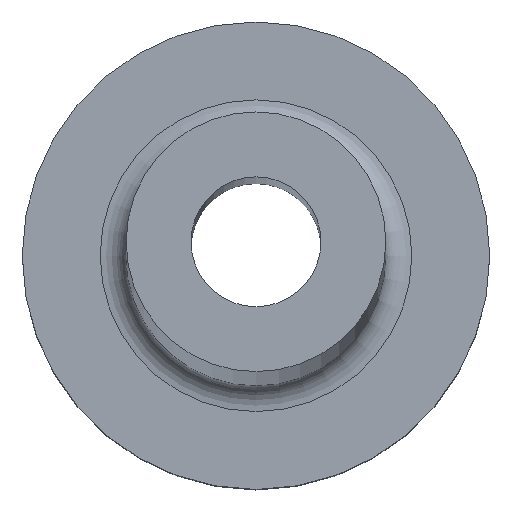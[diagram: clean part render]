
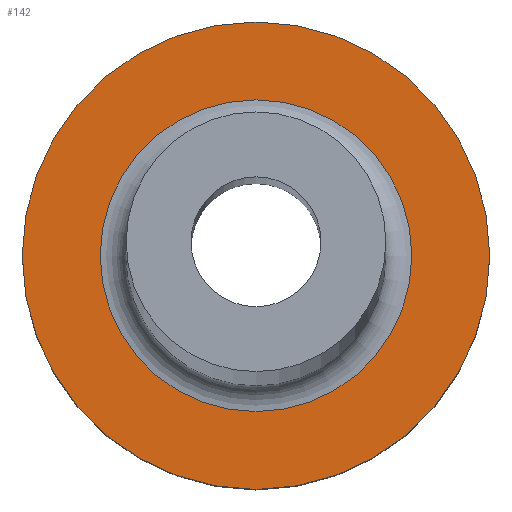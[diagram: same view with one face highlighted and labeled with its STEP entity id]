
A CAD part, top view. The second image highlights one B-rep face of the part: STEP entity #142.
In plain terms, the highlighted planar face has unit normal (0, 0, 1).
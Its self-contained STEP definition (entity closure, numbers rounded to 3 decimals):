
#4 = DIRECTION ( 'NONE',  ( 1., 0., 0. ) ) ;
#6 = VERTEX_POINT ( 'NONE', #280 ) ;
#9 = EDGE_CURVE ( 'NONE', #172, #172, #159, .T. ) ;
#46 = ORIENTED_EDGE ( 'NONE', *, *, #9, .T. ) ;
#73 = CIRCLE ( 'NONE', #83, 4.5 ) ;
#83 = AXIS2_PLACEMENT_3D ( 'NONE', #232, #279, #200 ) ;
#88 = FACE_OUTER_BOUND ( 'NONE', #241, .T. ) ;
#97 = EDGE_CURVE ( 'NONE', #6, #6, #73, .T. ) ;
#100 = DIRECTION ( 'NONE',  ( 1., 0., 0. ) ) ;
#101 = DIRECTION ( 'NONE',  ( 0., 0., 1. ) ) ;
#113 = PLANE ( 'NONE',  #125 ) ;
#116 = CARTESIAN_POINT ( 'NONE',  ( 0., 0., 6. ) ) ;
#121 = FACE_BOUND ( 'NONE', #165, .T. ) ;
#125 = AXIS2_PLACEMENT_3D ( 'NONE', #116, #101, #100 ) ;
#142 = ADVANCED_FACE ( 'NONE', ( #121, #88 ), #113, .T. ) ;
#159 = CIRCLE ( 'NONE', #249, 3. ) ;
#165 = EDGE_LOOP ( 'NONE', ( #46 ) ) ;
#172 = VERTEX_POINT ( 'NONE', #173 ) ;
#173 = CARTESIAN_POINT ( 'NONE',  ( 3., 0., 6. ) ) ;
#190 = ORIENTED_EDGE ( 'NONE', *, *, #97, .T. ) ;
#200 = DIRECTION ( 'NONE',  ( 1., 0., 0. ) ) ;
#232 = CARTESIAN_POINT ( 'NONE',  ( 0., 0., 6. ) ) ;
#233 = CARTESIAN_POINT ( 'NONE',  ( 0., 0., 6. ) ) ;
#241 = EDGE_LOOP ( 'NONE', ( #190 ) ) ;
#249 = AXIS2_PLACEMENT_3D ( 'NONE', #233, #268, #4 ) ;
#268 = DIRECTION ( 'NONE',  ( 0., 0., -1. ) ) ;
#279 = DIRECTION ( 'NONE',  ( 0., 0., 1. ) ) ;
#280 = CARTESIAN_POINT ( 'NONE',  ( 4.5, 0., 6. ) ) ;
